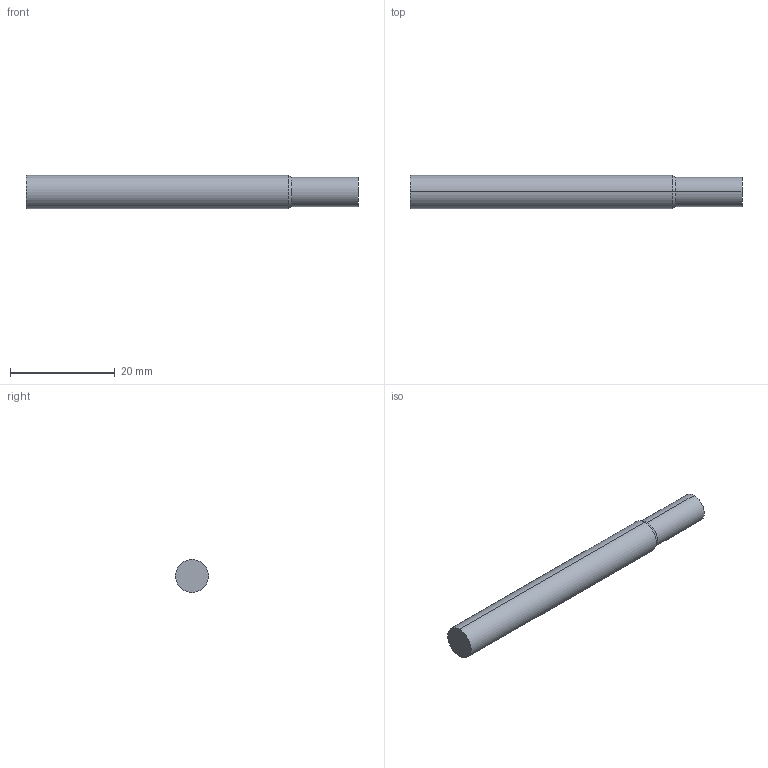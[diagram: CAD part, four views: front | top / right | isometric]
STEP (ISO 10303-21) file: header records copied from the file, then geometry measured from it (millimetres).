
FILE_DESCRIPTION (( 'STEP AP214' ), '1' );
FILE_NAME ('SSISTL50218-000.STEP', '2025-05-28T20:19:35', ( '' ), ( '' ), 'SwSTEP 2.0', 'SolidWorks 2023', '' );
FILE_SCHEMA (( 'AUTOMOTIVE_DESIGN' ));
Length unit declared in the file: inch
Products named in the file (3): SSISTL50218-000; SSI5 Imperial SHANK ONLY_SSISTL50218-000; SSI5 Imperial LOC ONLY_SSISTL50218-000
Assembly tree (2 placements, depth 2):
  SSISTL50218-000
    SSI5 Imperial LOC ONLY_SSISTL50218-000
    SSI5 Imperial SHANK ONLY_SSISTL50218-000
Bounding box: 63.5 x 6.35 x 6.35 mm (x, y, z)
Volume: 1914 mm3; surface area: 1340.6 mm2
Topology: 2 solids, 2 shells, 10 faces, 16 edges, 10 vertices
Faces by surface type: cylinder 4, plane 4, cone 2
Entity records: 384 total; most frequent: DIRECTION 56, CARTESIAN_POINT 41, ORIENTED_EDGE 32, AXIS2_PLACEMENT_3D 25, EDGE_CURVE 16, VERTEX_POINT 10, EDGE_LOOP 10, ADVANCED_FACE 10
